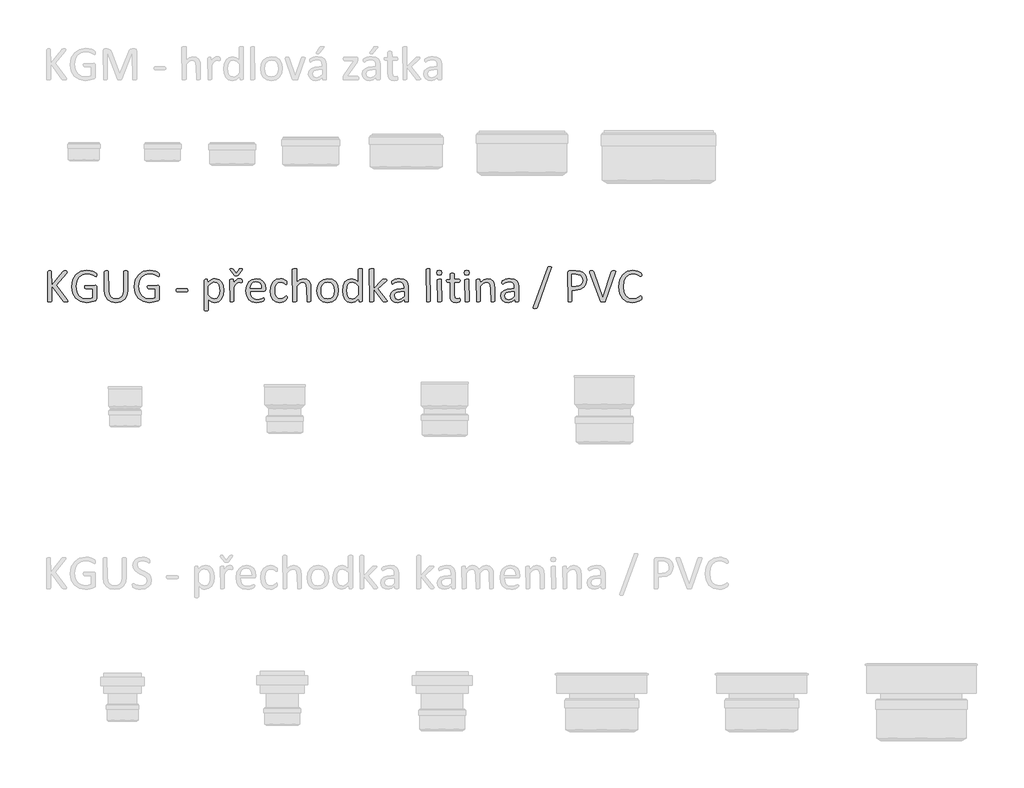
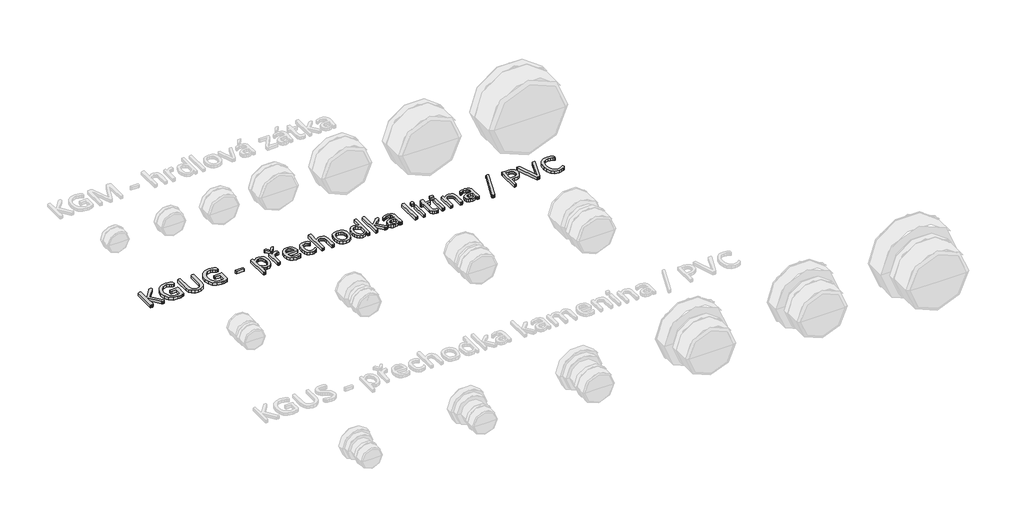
# One storey, part 5 of 11: 1 proxy.
"""IFC4 building model written with IfcOpenShell, lengths in millimetres."""

from ifc_helpers import new_model, si_unit, origin, origin_with_axes, place, context, project, spatial, polyline, outline, extrude, element, save

model = new_model("IFC4")

# Units and contexts
model_context = context("Model", 3, world=origin())
ifc_project = project(units=[si_unit("LENGTHUNIT", "METRE", prefix="MILLI")], contexts=[model_context])

# Site, building, storey
site = spatial("IfcSite", under=ifc_project)
building = spatial("IfcBuilding", under=site)
storey = spatial("IfcBuildingStorey", under=building, Name="Podlaží 1", Elevation=0.0)

# Proxy
placement = place(None, origin())
element("IfcBuildingElementProxy", 1, Name="120mm Arial", ObjectType="120mm Arial", at=placement, inside=storey, context=model_context, shape_type="SweptSolid", body=[
    extrude(outline(polyline([(-20472.3940185, 5556.0800864), (-20473.8234835, 5553.0583059), (-20476.3386182, 5552.4611876), (-20480.4098794, 5552.2259591), (-20485.6934717, 5552.4973765), (-20488.7514412, 5553.5106682), (-20490.4342292, 5555.1934562), (-20534.5486061, 5614.8329091), (-20534.5486061, 5555.1934562), (-20536.2494886, 5553.0221169), (-20538.7465288, 5552.4611876), (-20542.6549395, 5552.2259591), (-20546.5271613, 5552.4611876), (-20549.0603905, 5553.0221169), (-20550.3812885, 5553.9449361), (-20550.3812885, 5669.6954156), (-20546.5271613, 5672.4276842), (-20542.6549395, 5672.6629127), (-20538.7465288, 5672.4276842), (-20536.2494886, 5671.8667549), (-20534.5486061, 5616.6785475), (-20492.0989227, 5669.6954156), (-20490.7780246, 5671.0886917), (-20488.9866697, 5671.9753219), (-20486.399157, 5672.4819677), (-20482.4364628, 5672.6629127), (-20478.564241, 5672.4276842), (-20476.1938622, 5671.8305659), (-20475.2529486, 5667.3069424), (-20477.5509493, 5663.9775554), (-20517.3226476, 5616.6785475), (-20474.4748853, 5560.0789696), (-20472.3940185, 5556.0800864)])), origin_with_axes(), (0.0, 0.0, 1.0), 15.0),
    extrude(outline(polyline([(-20360.8414616, 5656.8845137), (-20361.0224065, 5653.6094102), (-20361.5833359, 5651.2390315), (-20362.5242496, 5649.9000389), (-20367.4278575, 5651.3114095), (-20374.4123323, 5655.2921982), (-20384.8709499, 5659.2729869), (-20399.3103563, 5661.0824364), (-20417.1696221, 5657.409254), (-20430.5595478, 5647.2401483), (-20438.9734876, 5631.8055447), (-20441.9047957, 5612.4082469), (-20438.7020702, 5591.6719565), (-20429.8176736, 5576.4182979), (-20416.2648974, 5567.0091609), (-20399.0208444, 5563.8064354), (-20387.693691, 5565.1273335), (-20377.0541284, 5569.0538388), (-20377.0541284, 5603.1800549), (-20404.0873028, 5603.1800549), (-20406.403398, 5604.8628428), (-20407.1633668, 5610.0921516), (-20406.9824219, 5613.2767826), (-20406.3853036, 5615.4481219), (-20366.4145658, 5617.0766264), (-20364.406077, 5616.7147365), (-20362.578533, 5615.6109724), (-20361.293824, 5613.5662945), (-20360.8414616, 5610.5987975), (-20360.8414616, 5565.0006721), (-20361.6738083, 5560.8208439), (-20365.2022347, 5557.7266854), (-20372.1505205, 5554.8134718), (-20380.9444447, 5552.1354867), (-20390.1183533, 5550.4707932), (-20399.2741673, 5549.9098639), (-20424.1179079, 5554.2887315), (-20442.610481, 5566.755838), (-20454.1366738, 5586.1169468), (-20458.1174625, 5611.3225773), (-20453.8290674, 5637.5595939), (-20441.7238508, 5657.590199), (-20422.9598603, 5670.4191954), (-20398.7313325, 5674.9790079), (-20385.8842416, 5673.8028658), (-20375.20849, 5671.0525027), (-20367.3554795, 5667.6145488), (-20362.9766119, 5664.5746737), (-20361.3119185, 5661.7157436), (-20360.8414616, 5656.8845137)])), origin_with_axes(), (0.0, 0.0, 1.0), 15.0),
    extrude(outline(polyline([(-20240.4045081, 5596.1593911), (-20243.6072336, 5576.5811484), (-20252.7268586, 5562.0150805), (-20267.166265, 5552.9859279), (-20286.5454683, 5549.9098639), (-20304.6037736, 5552.7868885), (-20318.5908176, 5561.3093952), (-20327.5837812, 5575.4231007), (-20330.7322232, 5594.9651545), (-20330.7322232, 5669.6954156), (-20329.0313408, 5671.8667549), (-20326.5704896, 5672.4276842), (-20322.5897008, 5672.6629127), (-20318.6993846, 5672.4276842), (-20316.1842499, 5671.8667549), (-20314.5195564, 5597.0641158), (-20312.5110675, 5582.4799535), (-20306.7027349, 5572.1118083), (-20297.5469208, 5565.8873023), (-20285.5321767, 5563.8064354), (-20273.3002986, 5565.8511133), (-20264.2530515, 5571.9851468), (-20258.5894748, 5582.0999691), (-20256.6171749, 5596.2317691), (-20256.6171749, 5669.6954156), (-20254.9162924, 5671.8667549), (-20252.4011578, 5672.4276842), (-20248.4746525, 5672.6629127), (-20244.6205252, 5672.4276842), (-20242.159674, 5671.8667549), (-20240.8387759, 5670.9801247), (-20240.4045081, 5596.1593911)])), origin_with_axes(), (0.0, 0.0, 1.0), 15.0),
    extrude(outline(polyline([(-20117.6514593, 5656.8845137), (-20117.8324042, 5653.6094102), (-20118.3933336, 5651.2390315), (-20119.3342473, 5649.9000389), (-20124.2378552, 5651.3114095), (-20131.22233, 5655.2921982), (-20141.6809476, 5659.2729869), (-20156.120354, 5661.0824364), (-20173.9796198, 5657.409254), (-20187.3695455, 5647.2401483), (-20195.7834853, 5631.8055447), (-20198.7147934, 5612.4082469), (-20195.5120679, 5591.6719565), (-20186.6276713, 5576.4182979), (-20173.0748951, 5567.0091609), (-20155.8308421, 5563.8064354), (-20144.5036887, 5565.1273335), (-20133.8641261, 5569.0538388), (-20133.8641261, 5603.1800549), (-20160.8973005, 5603.1800549), (-20163.2133957, 5604.8628428), (-20163.9733645, 5610.0921516), (-20163.7924196, 5613.2767826), (-20163.1953013, 5615.4481219), (-20123.2245635, 5617.0766264), (-20121.2160747, 5616.7147365), (-20119.3885307, 5615.6109724), (-20118.1038217, 5613.5662945), (-20117.6514593, 5610.5987975), (-20117.6514593, 5565.0006721), (-20118.483806, 5560.8208439), (-20122.0122324, 5557.7266854), (-20128.9605182, 5554.8134718), (-20137.7544424, 5552.1354867), (-20146.9283509, 5550.4707932), (-20156.084165, 5549.9098639), (-20180.9279056, 5554.2887315), (-20199.4204787, 5566.755838), (-20210.9466715, 5586.1169468), (-20214.9274602, 5611.3225773), (-20210.6390651, 5637.5595939), (-20198.5338485, 5657.590199), (-20179.769858, 5670.4191954), (-20155.5413302, 5674.9790079), (-20142.6942393, 5673.8028658), (-20132.0184877, 5671.0525027), (-20124.1654772, 5667.6145488), (-20119.7866096, 5664.5746737), (-20118.1219162, 5661.7157436), (-20117.6514593, 5656.8845137)])), origin_with_axes(), (0.0, 0.0, 1.0), 15.0),
    extrude(outline(polyline([(-20006.4788868, 5597.4260057), (-20007.3293281, 5592.8661931), (-20009.8082738, 5591.5995786), (-20049.3990271, 5591.5995786), (-20051.9503508, 5592.9023821), (-20052.800792, 5597.4260057), (-20051.9503508, 5601.9134403), (-20049.3990271, 5603.1800549), (-20009.8082738, 5603.1800549), (-20006.7141152, 5600.1401798), (-20006.4788868, 5597.4260057)])), origin_with_axes(), (0.0, 0.0, 1.0), 15.0),
    extrude(outline(polyline([(-19867.5131712, 5597.4983837), (-19869.8292665, 5577.6487235), (-19876.6327963, 5562.7026713), (-19887.7609103, 5553.2392508), (-19902.9421909, 5549.9098639), (-19909.6552483, 5550.6517381), (-19915.6988093, 5553.0040224), (-19921.5614255, 5557.0390946), (-19927.731648, 5562.7569548), (-19927.731648, 5520.4882163), (-19929.4144359, 5518.2264045), (-19931.8571927, 5517.6654752), (-19935.8741704, 5517.4845302), (-19939.8187701, 5517.6654752), (-19942.3158103, 5518.2264045), (-19943.6005194, 5519.1673182), (-19943.6005194, 5637.3424599), (-19940.216849, 5640.0928231), (-19936.8512731, 5640.237579), (-19933.4676027, 5640.1109176), (-19931.2600744, 5639.6404607), (-19929.6858534, 5626.9924092), (-19922.5023392, 5633.8321281), (-19915.5359589, 5638.663358), (-19908.3343502, 5641.5765716), (-19900.5537177, 5642.5536743), (-19885.3543425, 5638.9890589), (-19875.1128588, 5629.254221), (-19869.3407151, 5614.8871926), (-19867.5131712, 5597.4983837)]), holes=[polyline([(-19883.725838, 5595.7251232), (-19884.6667517, 5607.9931903), (-19887.9056662, 5618.5241859), (-19894.0758887, 5625.8886451), (-19903.7021597, 5628.6571027), (-19909.3838308, 5627.8066615), (-19915.0474075, 5625.0924874), (-19921.0728741, 5620.2069739), (-19927.731648, 5612.7701368), (-19927.731648, 5579.2229445), (-19916.1330772, 5567.7691297), (-19904.6068844, 5563.8064354), (-19895.0168024, 5566.574893), (-19888.5389735, 5573.9393522), (-19884.9019802, 5584.2351194), (-19883.725838, 5595.7251232)])]), origin_with_axes(), (0.0, 0.0, 1.0), 15.0),
    extrude(outline(polyline([(-19808.4527421, 5679.2493085), (-19807.2946945, 5680.5340176), (-19804.0014965, 5681.8006322), (-19801.1063774, 5681.9272937), (-19797.3246281, 5681.6196873), (-19795.5151787, 5680.7330571), (-19796.8722658, 5676.9332133), (-19811.818318, 5656.4502458), (-19812.9944601, 5655.2921982), (-19814.5867756, 5654.6227019), (-19816.9028709, 5654.260812), (-19820.2503523, 5654.1341506), (-19823.3987943, 5654.260812), (-19825.6244171, 5654.6588909), (-19827.1624491, 5655.3826707), (-19843.194171, 5676.9332133), (-19844.587447, 5679.1588361), (-19842.6875252, 5681.6196873), (-19838.9238704, 5681.9272937), (-19835.8116174, 5681.8006322), (-19833.92979, 5681.3482699), (-19831.6136947, 5679.2493085), (-19820.0332184, 5663.0728307), (-19808.4527421, 5679.2493085)])), origin_with_axes(), (0.0, 0.0, 1.0), 15.0),
    extrude(outline(polyline([(-19795.7142182, 5633.2892932), (-19795.8046906, 5629.9960953), (-19796.1665805, 5627.860945), (-19799.7131014, 5626.6486139), (-19802.0472911, 5627.4809606), (-19804.9605047, 5628.2771183), (-19808.4527421, 5628.6571027), (-19812.8677987, 5627.6619055), (-19817.4095167, 5624.4048966), (-19822.3855026, 5618.3975245), (-19828.1395518, 5609.2236159), (-19828.1395518, 5555.0487002), (-19832.2650965, 5552.4069041), (-19836.2820742, 5552.2259591), (-19840.2266739, 5552.4069041), (-19842.7237141, 5552.9497389), (-19844.3522186, 5637.4148379), (-19840.6247528, 5640.0928231), (-19836.969665, 5640.237579), (-19833.3869551, 5640.0928231), (-19831.1794268, 5639.5499882), (-19829.6956783, 5625.4000938), (-19823.4349833, 5633.976884), (-19817.8799736, 5639.2061928), (-19812.7049482, 5641.8298945), (-19807.5118284, 5642.5536743), (-19804.8700322, 5642.4270128), (-19801.7577792, 5641.9384615), (-19798.8264712, 5641.1242092), (-19796.9808328, 5640.237579), (-19795.7504072, 5636.5463022), (-19795.7142182, 5633.2892932)])), origin_with_axes(), (0.0, 0.0, 1.0), 15.0),
    extrude(outline(polyline([(-19705.386503, 5600.5382587), (-19707.1778579, 5595.4356113), (-19711.2853081, 5593.9156738), (-19765.6049798, 5593.9156738), (-19764.2478927, 5580.5257481), (-19759.7423637, 5570.3204534), (-19751.5274633, 5563.7702464), (-19739.1508292, 5561.4903402), (-19728.8731565, 5562.5579153), (-19721.056335, 5564.9644831), (-19715.6460812, 5567.3710508), (-19712.4433558, 5568.438626), (-19710.145355, 5565.5435069), (-19710.0186935, 5562.9017107), (-19710.109166, 5560.9655998), (-19714.5604116, 5555.5734406), (-19720.9115791, 5553.0764004), (-19729.9588262, 5550.8869666), (-19740.9240897, 5549.9098639), (-19758.6024105, 5552.8049829), (-19771.3590289, 5561.4179622), (-19779.1758504, 5575.7668961), (-19781.8176466, 5595.7975012), (-19779.049189, 5615.339555), (-19771.069517, 5630.0322843), (-19758.4757491, 5639.3147598), (-19741.9373813, 5642.5536743), (-19725.2904467, 5639.4233268), (-19713.9813878, 5630.9912925), (-19707.4673699, 5618.5603749), (-19705.386503, 5603.3248108), (-19705.386503, 5600.5382587)]), holes=[polyline([(-19721.5991698, 5605.4961501), (-19722.7707883, 5616.1221418), (-19726.7922897, 5624.1877626), (-19733.5641541, 5629.2768391), (-19742.986862, 5630.973198), (-19752.6312274, 5628.8742366), (-19759.5614187, 5623.2830379), (-19763.8860028, 5615.15861), (-19765.6049798, 5605.4961501), (-19721.5991698, 5605.4961501)])]), origin_with_axes(), (0.0, 0.0, 1.0), 15.0),
    extrude(outline(polyline([(-19622.0070737, 5568.8728938), (-19622.0975461, 5566.3396646), (-19622.423247, 5564.5302152), (-19624.4136414, 5560.8932219), (-19628.3039576, 5557.3647955), (-19634.4741802, 5553.6192352), (-19641.9110173, 5550.94125), (-19650.2344846, 5549.9098639), (-19665.9405056, 5552.9135499), (-19677.3943205, 5561.6893796), (-19684.4330787, 5575.8392741), (-19686.8577409, 5595.1822884), (-19683.8902439, 5616.6242641), (-19675.765816, 5631.2988989), (-19663.6244104, 5639.7852167), (-19648.4974132, 5642.5536743), (-19640.8615366, 5641.739422), (-19634.0580068, 5639.6042717), (-19628.5210916, 5636.5643967), (-19625.0107597, 5633.6149941), (-19623.5089167, 5631.6788832), (-19622.8213259, 5630.1408512), (-19622.459436, 5628.2409293), (-19622.3689635, 5625.5810387), (-19623.1832158, 5620.7679032), (-19625.1555157, 5619.3927217), (-19628.2858632, 5620.8402812), (-19632.7552032, 5624.0249122), (-19639.3235046, 5627.2095432), (-19648.3888462, 5628.6571027), (-19657.9110738, 5626.5581414), (-19664.9091195, 5620.2612574), (-19669.2110855, 5609.9654902), (-19670.6450741, 5595.8698792), (-19669.1613256, 5581.8647407), (-19664.782458, 5571.8042019), (-19657.6713218, 5565.7787353), (-19648.0269563, 5563.8064354), (-19638.9978037, 5565.6339793), (-19632.2666519, 5569.6509571), (-19627.4716109, 5573.6136513), (-19624.4317359, 5575.3869117), (-19622.1337351, 5571.8222964), (-19622.0070737, 5568.8728938)])), origin_with_axes(), (0.0, 0.0, 1.0), 15.0),
    extrude(outline(polyline([(-19529.3632633, 5555.0848892), (-19533.4888079, 5552.4069041), (-19537.4334077, 5552.2259591), (-19541.4503854, 5552.4069041), (-19543.8931421, 5552.9497389), (-19545.5759301, 5603.4333778), (-19546.6435052, 5614.7967201), (-19549.7376638, 5622.2335573), (-19555.0031616, 5627.0105037), (-19562.4761877, 5628.6571027), (-19573.4595457, 5624.6220305), (-19584.9495495, 5612.7701368), (-19584.9495495, 5555.0848892), (-19589.0750942, 5552.4069041), (-19593.0920719, 5552.2259591), (-19597.0366716, 5552.4069041), (-19599.5337118, 5552.9678334), (-19601.1622163, 5678.9597966), (-19597.0366716, 5681.7463487), (-19593.0920719, 5681.9272937), (-19589.0750942, 5681.7463487), (-19586.6323375, 5681.1854194), (-19585.3476284, 5680.2445057), (-19584.9495495, 5628.8742366), (-19571.9215137, 5639.1880983), (-19558.7125329, 5642.5536743), (-19544.8883393, 5639.7309332), (-19535.8229977, 5632.1855291), (-19530.8651063, 5621.1297931), (-19529.3632633, 5605.821851), (-19529.3632633, 5555.0848892)])), origin_with_axes(), (0.0, 0.0, 1.0), 15.0),
    extrude(outline(polyline([(-19422.8228813, 5597.1364938), (-19425.5008664, 5578.1553693), (-19433.5167274, 5563.2093171), (-19446.8704641, 5553.4201958), (-19465.4535097, 5549.9098639), (-19483.367059, 5553.0040224), (-19496.1055829, 5561.996986), (-19503.7052705, 5576.3278254), (-19506.2023107, 5595.4356113), (-19503.5605145, 5614.4167358), (-19495.598937, 5629.3446935), (-19482.2994838, 5639.0795314), (-19463.6802492, 5642.5536743), (-19445.7486055, 5639.4595158), (-19433.0100815, 5630.4665521), (-19425.374205, 5616.1357127), (-19422.8228813, 5597.1364938)]), holes=[polyline([(-19439.0355481, 5596.0508241), (-19440.2840682, 5608.6264976), (-19444.3915184, 5619.0127373), (-19452.1178674, 5626.06959), (-19464.2954621, 5628.6571027), (-19475.8578439, 5626.286724), (-19483.8194213, 5619.5917611), (-19488.4697063, 5609.3502774), (-19489.9896438, 5596.412714), (-19488.7411237, 5583.7646626), (-19484.5974846, 5573.4146119), (-19476.816852, 5566.3939481), (-19464.6573519, 5563.8064354), (-19453.1311591, 5566.1768142), (-19445.1152982, 5572.8174936), (-19440.5012022, 5583.0227883), (-19439.0355481, 5596.0508241)])]), origin_with_axes(), (0.0, 0.0, 1.0), 15.0),
    extrude(outline(polyline([(-19330.5047718, 5555.1210782), (-19333.8884422, 5552.4069041), (-19337.1997347, 5552.2259591), (-19340.6376886, 5552.4069041), (-19342.8814058, 5552.8773609), (-19344.5460993, 5565.181617), (-19357.9903085, 5553.9449361), (-19373.2439671, 5549.9098639), (-19388.6604762, 5553.5106682), (-19398.9924324, 5563.2455061), (-19404.7826706, 5577.6849125), (-19406.6102145, 5595.1460994), (-19404.3303082, 5614.7786256), (-19397.5991564, 5629.7246779), (-19386.5615149, 5639.2242873), (-19371.3259508, 5642.5536743), (-19358.1712535, 5639.3147598), (-19346.3917377, 5629.8151503), (-19346.3917377, 5678.9236077), (-19344.7270443, 5681.1311359), (-19342.2300041, 5681.6920653), (-19338.3939713, 5681.9272937), (-19334.3769936, 5681.6920653), (-19331.9342368, 5681.1311359), (-19330.6133388, 5680.2083167), (-19330.5047718, 5555.1210782)]), holes=[polyline([(-19346.3917377, 5613.3129716), (-19358.008403, 5624.7305975), (-19369.6974463, 5628.6571027), (-19379.2875282, 5625.9067396), (-19385.6929792, 5618.6508474), (-19389.275689, 5608.4455527), (-19390.3975477, 5596.8831709), (-19389.456634, 5584.6512928), (-19386.1815305, 5574.0479192), (-19379.9932135, 5566.611082), (-19370.3126591, 5563.8064354), (-19364.6309879, 5564.6206877), (-19359.0216947, 5567.3167673), (-19353.0324171, 5572.2022807), (-19346.3917377, 5579.6210234), (-19346.3917377, 5613.3129716)])]), origin_with_axes(), (0.0, 0.0, 1.0), 15.0),
    extrude(outline(polyline([(-19232.90307, 5555.1572672), (-19236.9743312, 5552.4069041), (-19240.9732144, 5552.2259591), (-19245.0987591, 5552.3707151), (-19247.8491222, 5552.8230774), (-19249.6585716, 5553.7278022), (-19250.9251862, 5555.1572672), (-19286.173261, 5600.7192036), (-19286.173261, 5555.0487002), (-19290.2988056, 5552.4069041), (-19294.3157834, 5552.2259591), (-19298.2603831, 5552.4069041), (-19300.7574233, 5552.9678334), (-19302.3859278, 5678.9597966), (-19298.2603831, 5681.7463487), (-19294.3157834, 5681.9272937), (-19290.2988056, 5681.7463487), (-19287.8560489, 5681.1854194), (-19286.5713398, 5680.2445057), (-19286.173261, 5602.818165), (-19253.9650613, 5637.052948), (-19252.3546513, 5638.554791), (-19250.3280679, 5639.5499882), (-19247.5415158, 5640.0928231), (-19243.6511995, 5640.237579), (-19239.6704108, 5640.0928231), (-19237.0828981, 5639.6404607), (-19235.6534331, 5638.8262085), (-19235.8524725, 5635.2977821), (-19237.9695284, 5632.7464584), (-19269.9605941, 5602.9267319), (-19235.1829763, 5559.4637568), (-19233.4278103, 5556.9486221), (-19232.90307, 5555.1572672)])), origin_with_axes(), (0.0, 0.0, 1.0), 15.0),
    extrude(outline(polyline([(-19151.8397359, 5555.0125112), (-19152.6358936, 5553.3297233), (-19154.8072329, 5552.4973765), (-19158.8603996, 5552.2259591), (-19162.9678498, 5552.4973765), (-19165.1934726, 5553.3297233), (-19165.8810634, 5555.0125112), (-19165.8810634, 5563.3359786), (-19178.0767525, 5553.7097077), (-19192.3352139, 5549.9098639), (-19204.2956746, 5551.6288408), (-19213.3972052, 5556.6048267), (-19219.2417268, 5564.6025932), (-19221.3225937, 5575.3869117), (-19218.4455691, 5587.6549788), (-19210.1944797, 5596.304147), (-19197.0397824, 5601.4610779), (-19179.524312, 5603.1800549), (-19168.0524027, 5603.1800549), (-19168.0524027, 5610.0921516), (-19169.0656944, 5619.1393988), (-19172.3227033, 5625.6896057), (-19178.131036, 5629.6342054), (-19186.9068657, 5630.973198), (-19196.94931, 5629.5256384), (-19204.7299425, 5626.3410075), (-19210.3211412, 5623.1563765), (-19213.6505281, 5621.7088169), (-19216.5094582, 5625.2372433), (-19216.6904032, 5627.897134), (-19216.3647023, 5631.6969777), (-19214.7723868, 5634.3568684), (-19210.4297082, 5637.0710425), (-19203.3366664, 5639.7490277), (-19194.5608367, 5641.7575165), (-19184.9526603, 5642.5536743), (-19169.5723402, 5640.5089964), (-19159.312762, 5634.5378133), (-19153.6129963, 5624.7848809), (-19151.8397359, 5611.1778213), (-19151.8397359, 5555.0125112)]), holes=[polyline([(-19168.0524027, 5591.5995786), (-19180.9356826, 5591.5995786), (-19191.6838121, 5590.5320034), (-19199.2654052, 5587.3835614), (-19203.6985563, 5582.389481), (-19205.1099269, 5575.6764236), (-19201.0567602, 5565.3263729), (-19189.6934178, 5561.4903402), (-19178.6919653, 5564.5483097), (-19168.0524027, 5573.9031632), (-19168.0524027, 5591.5995786)])]), origin_with_axes(), (0.0, 0.0, 1.0), 15.0),
    extrude(outline(polyline([(-19066.1442113, 5555.0848892), (-19070.2697559, 5552.4069041), (-19074.2867337, 5552.2259591), (-19078.2313334, 5552.4069041), (-19080.7283736, 5552.9678334), (-19082.3568781, 5678.9597966), (-19078.2313334, 5681.7463487), (-19074.2867337, 5681.9272937), (-19070.2697559, 5681.7463487), (-19067.8269992, 5681.1854194), (-19066.1442113, 5555.0848892)])), origin_with_axes(), (0.0, 0.0, 1.0), 15.0),
    extrude(outline(polyline([(-19022.1384013, 5555.0487002), (-19026.263946, 5552.4069041), (-19030.2809237, 5552.2259591), (-19034.2255235, 5552.4069041), (-19036.7225637, 5552.9497389), (-19038.3510681, 5637.4148379), (-19034.2255235, 5640.0566341), (-19030.2809237, 5640.237579), (-19026.263946, 5640.0566341), (-19023.8211893, 5639.5137992), (-19022.1384013, 5555.0487002)])), origin_with_axes(), (0.0, 0.0, 1.0), 15.0),
    extrude(outline(polyline([(-19022.1384013, 5665.8231938), (-19024.1287957, 5658.4225457), (-19031.5113493, 5656.4502458), (-19038.712958, 5658.3682622), (-19040.6671634, 5665.6060599), (-19038.676769, 5673.006708), (-19031.2942154, 5674.9790079), (-19024.0926067, 5673.0609915), (-19022.1384013, 5665.8231938)])), origin_with_axes(), (0.0, 0.0, 1.0), 15.0),
    extrude(outline(polyline([(-18950.3394483, 5560.5494265), (-18950.7013381, 5556.0258029), (-18951.8051023, 5553.5649517), (-18954.0126306, 5552.0812032), (-18957.360112, 5550.94125), (-18961.3589952, 5550.1993758), (-18965.5750124, 5549.9098639), (-18976.5945594, 5551.6650298), (-18984.1037745, 5556.9667166), (-18988.3740751, 5565.9596802), (-18989.7130677, 5578.8248656), (-18989.7130677, 5628.6571027), (-19000.7145202, 5628.6571027), (-19002.831576, 5630.0141898), (-19003.6096392, 5634.4111519), (-19003.3925053, 5637.1072315), (-19002.831576, 5638.9347754), (-18989.7130677, 5640.237579), (-18989.7130677, 5660.3948456), (-18988.0845632, 5662.6023739), (-18985.587523, 5663.2175867), (-18981.6429233, 5663.3985316), (-18977.6259455, 5663.2175867), (-18975.1831888, 5662.6023739), (-18973.8984797, 5661.6071767), (-18973.5004009, 5640.237579), (-18953.2345673, 5640.237579), (-18950.5203932, 5637.1072315), (-18950.3394483, 5634.4111519), (-18951.135606, 5630.0141898), (-18953.2345673, 5628.6571027), (-18973.5004009, 5628.6571027), (-18973.5004009, 5581.4666618), (-18971.0938331, 5568.2757755), (-18962.4627594, 5563.8064354), (-18958.861955, 5564.2226088), (-18956.0573084, 5565.0911445), (-18953.9402526, 5565.9777747), (-18952.3660316, 5566.4120426), (-18950.5203932, 5563.4807345), (-18950.3394483, 5560.5494265)])), origin_with_axes(), (0.0, 0.0, 1.0), 15.0),
    extrude(outline(polyline([(-18915.5980194, 5665.8231938), (-18917.5884137, 5658.4225457), (-18924.9709674, 5656.4502458), (-18932.1725761, 5658.3682622), (-18934.1267814, 5665.6060599), (-18932.1363871, 5673.006708), (-18924.7538334, 5674.9790079), (-18917.5522247, 5673.0609915), (-18915.5980194, 5665.8231938)])), origin_with_axes(), (0.0, 0.0, 1.0), 15.0),
    extrude(outline(polyline([(-18915.5980194, 5555.0487002), (-18919.723564, 5552.4069041), (-18923.7405418, 5552.2259591), (-18927.6851415, 5552.4069041), (-18930.1821817, 5552.9497389), (-18931.8106862, 5637.4148379), (-18927.6851415, 5640.0566341), (-18923.7405418, 5640.237579), (-18919.723564, 5640.0566341), (-18917.2808073, 5639.5137992), (-18915.5980194, 5555.0487002)])), origin_with_axes(), (0.0, 0.0, 1.0), 15.0),
    extrude(outline(polyline([(-18816.0059232, 5555.0848892), (-18820.1314679, 5552.4069041), (-18824.0760676, 5552.2259591), (-18828.0930453, 5552.4069041), (-18830.535802, 5552.9497389), (-18832.21859, 5603.4333778), (-18833.2861652, 5614.7967201), (-18836.3803237, 5622.2335573), (-18841.6458215, 5627.0105037), (-18849.1188476, 5628.6571027), (-18860.1022056, 5624.6220305), (-18871.5922094, 5612.7701368), (-18871.5922094, 5555.0848892), (-18875.7177541, 5552.4069041), (-18879.7347318, 5552.2259591), (-18883.6793316, 5552.4069041), (-18886.1763718, 5552.9497389), (-18887.8048762, 5637.4148379), (-18884.0774104, 5640.0928231), (-18880.4223226, 5640.237579), (-18876.8396127, 5640.0928231), (-18874.6320844, 5639.5499882), (-18873.1483359, 5626.5219524), (-18859.3060478, 5638.699547), (-18845.3913818, 5642.5536743), (-18831.5671882, 5639.7309332), (-18822.4837521, 5632.1855291), (-18817.5077662, 5621.1297931), (-18816.0059232, 5605.894229), (-18816.0059232, 5555.0848892)])), origin_with_axes(), (0.0, 0.0, 1.0), 15.0),
    extrude(outline(polyline([(-18723.3621128, 5555.0125112), (-18724.1582705, 5553.3297233), (-18726.3296098, 5552.4973765), (-18730.3827765, 5552.2259591), (-18734.4902267, 5552.4973765), (-18736.7158495, 5553.3297233), (-18737.4034403, 5555.0125112), (-18737.4034403, 5563.3359786), (-18749.5991294, 5553.7097077), (-18763.8575908, 5549.9098639), (-18775.8180515, 5551.6288408), (-18784.9195821, 5556.6048267), (-18790.7641037, 5564.6025932), (-18792.8449706, 5575.3869117), (-18789.967946, 5587.6549788), (-18781.7168566, 5596.304147), (-18768.5621593, 5601.4610779), (-18751.0466889, 5603.1800549), (-18739.5747796, 5603.1800549), (-18739.5747796, 5610.0921516), (-18740.5880713, 5619.1393988), (-18743.8450802, 5625.6896057), (-18749.6534129, 5629.6342054), (-18758.4292426, 5630.973198), (-18768.4716869, 5629.5256384), (-18776.2523194, 5626.3410075), (-18781.8435181, 5623.1563765), (-18785.172905, 5621.7088169), (-18788.0318351, 5625.2372433), (-18788.2127801, 5627.897134), (-18787.8870792, 5631.6969777), (-18786.2947637, 5634.3568684), (-18781.9520851, 5637.0710425), (-18774.8590433, 5639.7490277), (-18766.0832136, 5641.7575165), (-18756.4750372, 5642.5536743), (-18741.0947171, 5640.5089964), (-18730.8351389, 5634.5378133), (-18725.1353732, 5624.7848809), (-18723.3621128, 5611.1778213), (-18723.3621128, 5555.0125112)]), holes=[polyline([(-18739.5747796, 5591.5995786), (-18752.4580595, 5591.5995786), (-18763.206189, 5590.5320034), (-18770.7877821, 5587.3835614), (-18775.2209332, 5582.389481), (-18776.6323038, 5575.6764236), (-18772.5791371, 5565.3263729), (-18761.2157947, 5561.4903402), (-18750.2143422, 5564.5483097), (-18739.5747796, 5573.9031632), (-18739.5747796, 5591.5995786)])]), origin_with_axes(), (0.0, 0.0, 1.0), 15.0),
    extrude(outline(polyline([(-18652.1783725, 5530.4401881), (-18653.1735697, 5528.5583607), (-18654.6935072, 5527.4907855), (-18656.9734135, 5526.9298562), (-18660.2485169, 5526.7489113), (-18664.1026442, 5527.0746122), (-18666.473023, 5527.9974314), (-18667.4863146, 5529.4811799), (-18667.1244247, 5531.5620467), (-18611.0314927, 5685.1843027), (-18610.0362955, 5687.0661301), (-18608.552547, 5688.1698942), (-18606.2907352, 5688.7308235), (-18602.9613482, 5688.8755795), (-18599.1615045, 5688.5498786), (-18596.8454092, 5687.6632484), (-18595.814023, 5686.1794998), (-18596.0854404, 5684.062444), (-18652.1783725, 5530.4401881)])), origin_with_axes(), (0.0, 0.0, 1.0), 15.0),
    extrude(outline(polyline([(-18459.3272531, 5637.6319718), (-18462.2947502, 5621.455494), (-18470.7991625, 5609.1693324), (-18484.3700331, 5601.3163219), (-18503.550197, 5598.5478643), (-18517.2296346, 5598.5478643), (-18517.2296346, 5555.1934562), (-18518.9667061, 5553.0221169), (-18521.4275573, 5552.4611876), (-18525.335968, 5552.2259591), (-18529.2443788, 5552.4611876), (-18531.741419, 5553.0221169), (-18533.4423015, 5665.8231938), (-18531.4880961, 5671.0886917), (-18527.1092285, 5672.6629127), (-18501.2702907, 5672.6629127), (-18493.7791701, 5672.3372118), (-18485.2928523, 5670.9439357), (-18475.3046915, 5666.9812415), (-18466.6917123, 5659.8339163), (-18461.2452695, 5649.9905114), (-18459.3272531, 5637.6319718)]), holes=[polyline([(-18475.53992, 5636.3653572), (-18478.3264721, 5648.144873), (-18485.2204744, 5655.1836312), (-18493.7067922, 5658.1330338), (-18502.2473934, 5658.7663411), (-18517.2296346, 5658.7663411), (-18517.2296346, 5612.4444359), (-18502.6092833, 5612.4444359), (-18490.3954997, 5614.2357908), (-18482.2348828, 5619.1936822), (-18477.2408024, 5626.7752753), (-18475.53992, 5636.3653572)])]), origin_with_axes(), (0.0, 0.0, 1.0), 15.0),
    extrude(outline(polyline([(-18387.0578432, 5555.5553461), (-18388.0711349, 5553.8906526), (-18389.8805843, 5552.8773609), (-18392.8480814, 5552.3707151), (-18397.226949, 5552.2259591), (-18400.8096588, 5552.2802426), (-18403.451455, 5552.515471), (-18405.3513769, 5552.9135499), (-18447.4210759, 5666.4745956), (-18448.1991392, 5669.7496991), (-18447.4210759, 5671.649621), (-18444.7249963, 5672.4819677), (-18439.7128214, 5672.6629127), (-18435.5872767, 5672.5181567), (-18433.2349925, 5672.0115109), (-18431.1722201, 5669.5144707), (-18396.7926811, 5569.0900277), (-18363.3178668, 5669.3335257), (-18362.666465, 5670.9982192), (-18361.3817559, 5672.0115109), (-18358.7761488, 5672.5181567), (-18354.3068087, 5672.6629127), (-18349.7831851, 5672.4276842), (-18347.5032789, 5671.5591485), (-18347.032822, 5669.6773211), (-18347.9375467, 5666.4022177), (-18387.0578432, 5555.5553461)])), origin_with_axes(), (0.0, 0.0, 1.0), 15.0),
    extrude(outline(polyline([(-18246.2464892, 5568.257681), (-18246.3369617, 5565.6158849), (-18246.6626626, 5563.643585), (-18247.2778754, 5562.141742), (-18248.5987735, 5560.5856155), (-18252.5252787, 5557.7990634), (-18259.9621158, 5554.1439755), (-18270.1855051, 5551.1402895), (-18282.7973675, 5549.9098639), (-18304.1126817, 5553.8725581), (-18320.343443, 5565.5616014), (-18330.6573047, 5584.6512928), (-18334.2581091, 5610.8521204), (-18330.3496983, 5637.9033893), (-18319.3663404, 5658.0425613), (-18302.4479883, 5670.6363293), (-18280.6260282, 5674.9790079), (-18270.3845445, 5673.9838107), (-18261.138258, 5671.468676), (-18253.5928539, 5667.9583442), (-18249.0330413, 5664.6832407), (-18247.3864424, 5662.7652243), (-18246.7712295, 5661.2633813), (-18246.3912452, 5659.2187034), (-18246.2464892, 5656.4140568), (-18246.4455287, 5653.3198983), (-18247.0245525, 5651.184748), (-18252.9595466, 5651.3114095), (-18259.1659581, 5655.2921982), (-18268.3760556, 5659.2729869), (-18281.385997, 5661.0824364), (-18296.4044272, 5657.8073329), (-18307.966809, 5648.1629675), (-18315.4036461, 5632.6378914), (-18318.0454423, 5611.6844671), (-18315.5122131, 5591.0205547), (-18308.2744154, 5576.020219), (-18296.6939391, 5566.9005939), (-18281.1326741, 5563.8064354), (-18268.3036777, 5565.5977904), (-18258.9669187, 5569.5966736), (-18252.6338457, 5573.5955568), (-18248.7435294, 5575.3869117), (-18246.3912452, 5571.8042019), (-18246.2464892, 5568.257681)])), origin_with_axes(), (0.0, 0.0, 1.0), 15.0),
])

save(model, "model.ifc")
